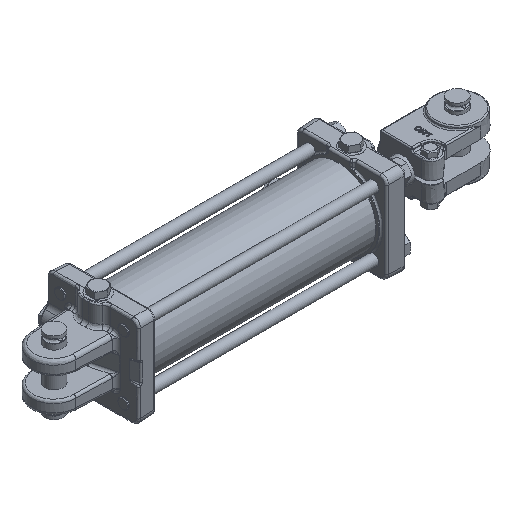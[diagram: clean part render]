
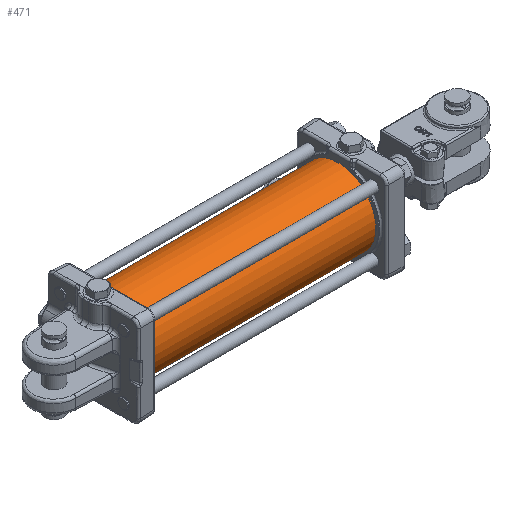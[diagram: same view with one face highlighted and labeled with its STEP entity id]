
A CAD part, isometric view. The second image highlights one B-rep face of the part: STEP entity #471.
In plain terms, the highlighted cylindrical face has radius 52.388 mm (diameter 104.775 mm), a full revolution.
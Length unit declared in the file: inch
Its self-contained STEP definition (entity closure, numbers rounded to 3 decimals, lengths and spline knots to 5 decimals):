
#210=CARTESIAN_POINT('',(-0.967,2.06178,0.0545));
#211=VERTEX_POINT('',#210);
#212=CARTESIAN_POINT('',(-0.967,2.06178,0.0545));
#213=CARTESIAN_POINT('',(-0.97384,2.06178,0.0545));
#214=CARTESIAN_POINT('',(-0.98114,2.06182,0.05313));
#215=CARTESIAN_POINT('',(-0.99457,2.06195,0.04757));
#216=CARTESIAN_POINT('',(-1.0007,2.06205,0.04338));
#217=CARTESIAN_POINT('',(-1.01038,2.06223,0.0337));
#218=CARTESIAN_POINT('',(-1.01457,2.06233,0.02757));
#219=CARTESIAN_POINT('',(-1.02013,2.06246,0.01414));
#220=CARTESIAN_POINT('',(-1.0215,2.0625,0.00684));
#221=CARTESIAN_POINT('',(-1.0215,2.0625,-0.00684));
#222=CARTESIAN_POINT('',(-1.02013,2.06246,-0.01414));
#223=CARTESIAN_POINT('',(-1.01457,2.06233,-0.02757));
#224=CARTESIAN_POINT('',(-1.01038,2.06223,-0.0337));
#225=CARTESIAN_POINT('',(-1.0007,2.06205,-0.04338));
#226=CARTESIAN_POINT('',(-0.99457,2.06195,-0.04757));
#227=CARTESIAN_POINT('',(-0.98114,2.06182,-0.05313));
#228=CARTESIAN_POINT('',(-0.97384,2.06178,-0.0545));
#229=CARTESIAN_POINT('',(-0.96016,2.06178,-0.0545));
#230=CARTESIAN_POINT('',(-0.95286,2.06182,-0.05313));
#231=CARTESIAN_POINT('',(-0.93943,2.06195,-0.04757));
#232=CARTESIAN_POINT('',(-0.9333,2.06205,-0.04338));
#233=CARTESIAN_POINT('',(-0.92362,2.06223,-0.0337));
#234=CARTESIAN_POINT('',(-0.91943,2.06233,-0.02757));
#235=CARTESIAN_POINT('',(-0.91387,2.06246,-0.01414));
#236=CARTESIAN_POINT('',(-0.9125,2.0625,-0.00684));
#237=CARTESIAN_POINT('',(-0.9125,2.0625,0.00684));
#238=CARTESIAN_POINT('',(-0.91387,2.06246,0.01414));
#239=CARTESIAN_POINT('',(-0.91943,2.06233,0.02757));
#240=CARTESIAN_POINT('',(-0.92362,2.06223,0.0337));
#241=CARTESIAN_POINT('',(-0.9333,2.06205,0.04338));
#242=CARTESIAN_POINT('',(-0.93943,2.06195,0.04757));
#243=CARTESIAN_POINT('',(-0.95286,2.06182,0.05313));
#244=CARTESIAN_POINT('',(-0.96016,2.06178,0.0545));
#245=CARTESIAN_POINT('',(-0.967,2.06178,0.0545));
#246=B_SPLINE_CURVE_WITH_KNOTS('',3,(#212,#213,#214,#215,#216,#217,#218,#219,#220,#221,#222,#223,#224,#225,#226,#227,#228,#229,#230,#231,#232,#233,#234,#235,#236,#237,#238,#239,#240,#241,#242,#243,#244,#245),.UNSPECIFIED.,.T.,.U.,(4,2,2,2,2,2,2,2,2,2,2,2,2,2,2,2,4),(0.0,0.05215,0.10429,0.15644,0.20859,0.26074,0.31288,0.36503,0.41718,0.46933,0.52147,0.57362,0.62577,0.67792,0.73006,0.78221,0.83436),.UNSPECIFIED.);
#247=EDGE_CURVE('',#211,#211,#246,.T.);
#298=CARTESIAN_POINT('',(-1.347,2.06227,0.031));
#299=VERTEX_POINT('',#298);
#300=CARTESIAN_POINT('',(-1.347,2.06227,0.031));
#301=CARTESIAN_POINT('',(-1.35089,2.06227,0.031));
#302=CARTESIAN_POINT('',(-1.35504,2.06228,0.03022));
#303=CARTESIAN_POINT('',(-1.36268,2.06232,0.02706));
#304=CARTESIAN_POINT('',(-1.36617,2.06235,0.02467));
#305=CARTESIAN_POINT('',(-1.37167,2.06241,0.01917));
#306=CARTESIAN_POINT('',(-1.37406,2.06244,0.01568));
#307=CARTESIAN_POINT('',(-1.37722,2.06249,0.00804));
#308=CARTESIAN_POINT('',(-1.378,2.0625,0.00389));
#309=CARTESIAN_POINT('',(-1.378,2.0625,-0.00389));
#310=CARTESIAN_POINT('',(-1.37722,2.06249,-0.00804));
#311=CARTESIAN_POINT('',(-1.37406,2.06244,-0.01568));
#312=CARTESIAN_POINT('',(-1.37167,2.06241,-0.01917));
#313=CARTESIAN_POINT('',(-1.36617,2.06235,-0.02467));
#314=CARTESIAN_POINT('',(-1.36268,2.06232,-0.02706));
#315=CARTESIAN_POINT('',(-1.35504,2.06228,-0.03022));
#316=CARTESIAN_POINT('',(-1.35089,2.06227,-0.031));
#317=CARTESIAN_POINT('',(-1.34311,2.06227,-0.031));
#318=CARTESIAN_POINT('',(-1.33896,2.06228,-0.03022));
#319=CARTESIAN_POINT('',(-1.33132,2.06232,-0.02706));
#320=CARTESIAN_POINT('',(-1.32783,2.06235,-0.02467));
#321=CARTESIAN_POINT('',(-1.32233,2.06241,-0.01917));
#322=CARTESIAN_POINT('',(-1.31994,2.06244,-0.01568));
#323=CARTESIAN_POINT('',(-1.31678,2.06249,-0.00804));
#324=CARTESIAN_POINT('',(-1.316,2.0625,-0.00389));
#325=CARTESIAN_POINT('',(-1.316,2.0625,0.00389));
#326=CARTESIAN_POINT('',(-1.31678,2.06249,0.00804));
#327=CARTESIAN_POINT('',(-1.31994,2.06244,0.01568));
#328=CARTESIAN_POINT('',(-1.32233,2.06241,0.01917));
#329=CARTESIAN_POINT('',(-1.32783,2.06235,0.02467));
#330=CARTESIAN_POINT('',(-1.33132,2.06232,0.02706));
#331=CARTESIAN_POINT('',(-1.33896,2.06228,0.03022));
#332=CARTESIAN_POINT('',(-1.34311,2.06227,0.031));
#333=CARTESIAN_POINT('',(-1.347,2.06227,0.031));
#334=B_SPLINE_CURVE_WITH_KNOTS('',3,(#300,#301,#302,#303,#304,#305,#306,#307,#308,#309,#310,#311,#312,#313,#314,#315,#316,#317,#318,#319,#320,#321,#322,#323,#324,#325,#326,#327,#328,#329,#330,#331,#332,#333),.UNSPECIFIED.,.T.,.U.,(4,2,2,2,2,2,2,2,2,2,2,2,2,2,2,2,4),(0.0,0.02966,0.05932,0.08898,0.11864,0.1483,0.17796,0.20763,0.23729,0.26695,0.29661,0.32627,0.35593,0.38559,0.41525,0.44491,0.47457),.UNSPECIFIED.);
#335=EDGE_CURVE('',#299,#299,#334,.T.);
#345=CARTESIAN_POINT('',(0.,2.0625,0.0));
#346=VERTEX_POINT('',#345);
#347=CARTESIAN_POINT('',(0.,0.0,0.0));
#348=DIRECTION('',(1.0,0.0,0.0));
#349=DIRECTION('',(0.0,1.0,0.0));
#350=AXIS2_PLACEMENT_3D('',#347,#348,#349);
#351=CIRCLE('',#350,2.0625);
#352=EDGE_CURVE('',#346,#346,#351,.T.);
#439=CARTESIAN_POINT('',(-12.46875,2.0625,0.0));
#440=VERTEX_POINT('',#439);
#441=CARTESIAN_POINT('',(-12.46875,0.0,0.0));
#442=DIRECTION('',(1.0,0.0,0.0));
#443=DIRECTION('',(0.0,1.0,0.0));
#444=AXIS2_PLACEMENT_3D('',#441,#442,#443);
#445=CIRCLE('',#444,2.0625);
#446=EDGE_CURVE('',#440,#440,#445,.T.);
#454=CARTESIAN_POINT('',(-6.23438,0.0,0.0));
#455=DIRECTION('',(1.0,0.0,0.0));
#456=DIRECTION('',(0.0,1.0,0.0));
#457=AXIS2_PLACEMENT_3D('',#454,#455,#456);
#458=CYLINDRICAL_SURFACE('',#457,2.0625);
#459=ORIENTED_EDGE('',*,*,#352,.F.);
#460=EDGE_LOOP('',(#459));
#461=FACE_OUTER_BOUND('',#460,.T.);
#462=ORIENTED_EDGE('',*,*,#247,.T.);
#463=EDGE_LOOP('',(#462));
#464=FACE_BOUND('',#463,.T.);
#465=ORIENTED_EDGE('',*,*,#335,.T.);
#466=EDGE_LOOP('',(#465));
#467=FACE_BOUND('',#466,.T.);
#468=ORIENTED_EDGE('',*,*,#446,.T.);
#469=EDGE_LOOP('',(#468));
#470=FACE_BOUND('',#469,.T.);
#471=ADVANCED_FACE('',(#461,#464,#467,#470),#458,.T.);
